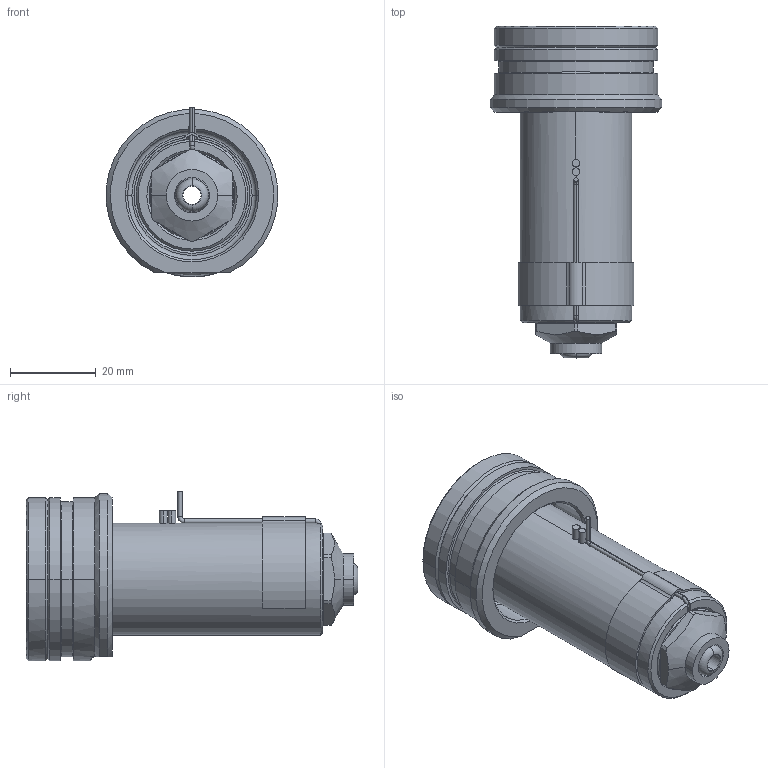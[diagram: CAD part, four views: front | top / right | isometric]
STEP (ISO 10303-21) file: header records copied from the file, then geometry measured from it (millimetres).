
FILE_DESCRIPTION((''),'2;1');
FILE_NAME('EO08_VG-BL_WR_060_SW','2024-02-19T13:06:24',('sundharh'),(''),'CREO PARAMETRIC BY PTC INC, 2023154','CREO PARAMETRIC BY PTC INC, 2023154','');
FILE_SCHEMA(('CONFIG_CONTROL_DESIGN'));
Length unit declared in the file: millimetre
Products named in the file (1): EO08_VG-BL_WR_060_SW
Bounding box: 39.88 x 77.2 x 39.52 mm (x, y, z)
Volume: 44326.4 mm3; surface area: 14658.2 mm2
Topology: 1 solids, 1 shells, 197 faces, 483 edges, 292 vertices
Faces by surface type: cylinder 72, plane 45, cone 39, torus 27, bspline 12, sphere 2
Entity records: 7126 total; most frequent: CARTESIAN_POINT 2393, DIRECTION 1055, ORIENTED_EDGE 958, EDGE_CURVE 479, AXIS2_PLACEMENT_3D 442, VERTEX_POINT 292, CIRCLE 257, EDGE_LOOP 213
